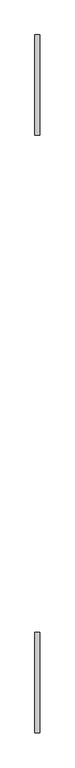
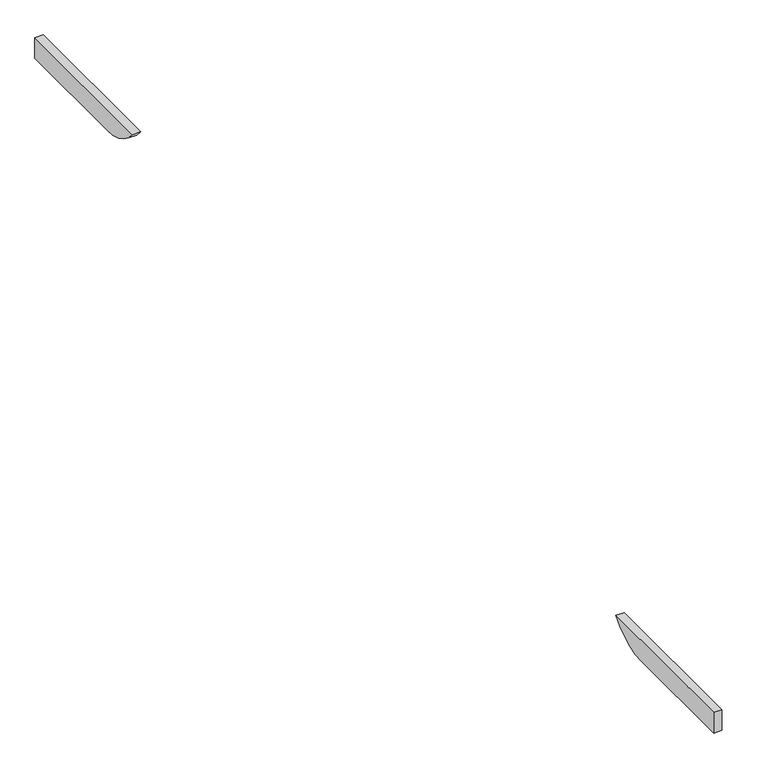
"""IFC4 building model written with IfcOpenShell, lengths in millimetres: proxy geometry, Modelos genéricos 103 : Modelos genéricos 2."""

from ifc_helpers import new_model, si_unit, point, frame, frame_2d, origin, place, context, project, spatial, polyline, circle_curve, trimmed, segment, composite_curve, outline, extrude, source, transform, mapped, element, save


def generic_models_79338df4(model_context):
    return source(origin(), model_context, "Body", "SweptSolid", [
        extrude(outline(composite_curve([segment(polyline([(-2331.3761835, 2840.0), (-2331.3761835, 3000.0), (-1101.3761835, 3000.0)]), True, "CONTINUOUS"), segment(trimmed(circle_curve(frame_2d((-1421.3761835, 3240.0)), 400.0), [point((-1101.3761835, 3000.0))], [point((-1421.3761835, 2840.0))], False, "CARTESIAN"), True, "CONTINUOUS"), segment(polyline([(-1421.3761835, 2840.0), (-2331.3761835, 2840.0)]), True, "CONTINUOUS")], self_intersect=False)), frame((62573.4472467, 0.0, 0.0), z_axis=(1.0, 0.0, 0.0), x_axis=(0.0, 1.0, 0.0)), (0.0, 0.0, 1.0), 60.0),
        extrude(outline(composite_curve([segment(polyline([(6228.6238165, 2840.0), (5318.6238165, 2840.0)]), True, "CONTINUOUS"), segment(trimmed(circle_curve(frame_2d((5318.6238165, 3240.0)), 400.0), [point((5318.6238165, 2840.0))], [point((4998.6238165, 3000.0))], False, "CARTESIAN"), True, "CONTINUOUS"), segment(polyline([(4998.6238165, 3000.0), (6228.6238165, 3000.0), (6228.6238165, 2840.0)]), True, "CONTINUOUS")], self_intersect=False)), frame((62573.4472467, 0.0, 0.0), z_axis=(1.0, 0.0, 0.0), x_axis=(0.0, 1.0, 0.0)), (0.0, 0.0, 1.0), 60.0),
    ])


if __name__ == "__main__":
    model = new_model("IFC4")
    model_context = context("Model", 3, world=origin())
    ifc_project = project(units=[si_unit("LENGTHUNIT", "METRE", prefix="MILLI")], contexts=[model_context])
    site = spatial("IfcSite", under=ifc_project)
    building = spatial("IfcBuilding", under=site)
    placement = place(None, origin())
    generic_models_shape = generic_models_79338df4(model_context)
    element("IfcBuildingElementProxy", 1, Name="Modelos genéricos 103 : Modelos genéricos 2", ObjectType="Modelos genéricos 103 : Modelos genéricos 2", at=placement, inside=building, context=model_context, shape_type="MappedRepresentation", body=[
        mapped(generic_models_shape, transform((0.0, 0.0, 0.0), x_axis=(1.0, 0.0, 0.0), y_axis=(0.0, 1.0, 0.0), z_axis=(0.0, 0.0, 1.0))),
    ])
    save(model, "model.ifc")
